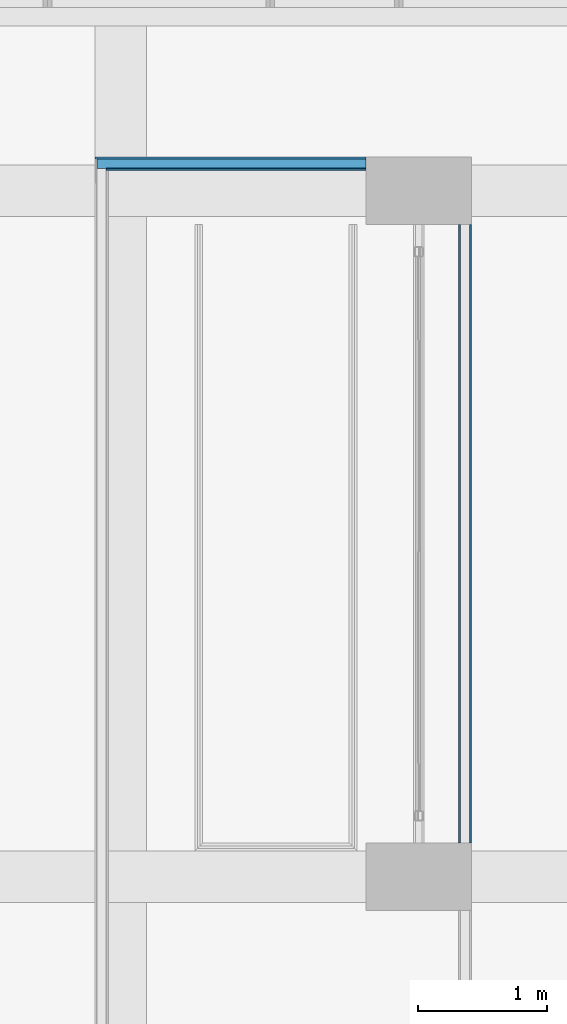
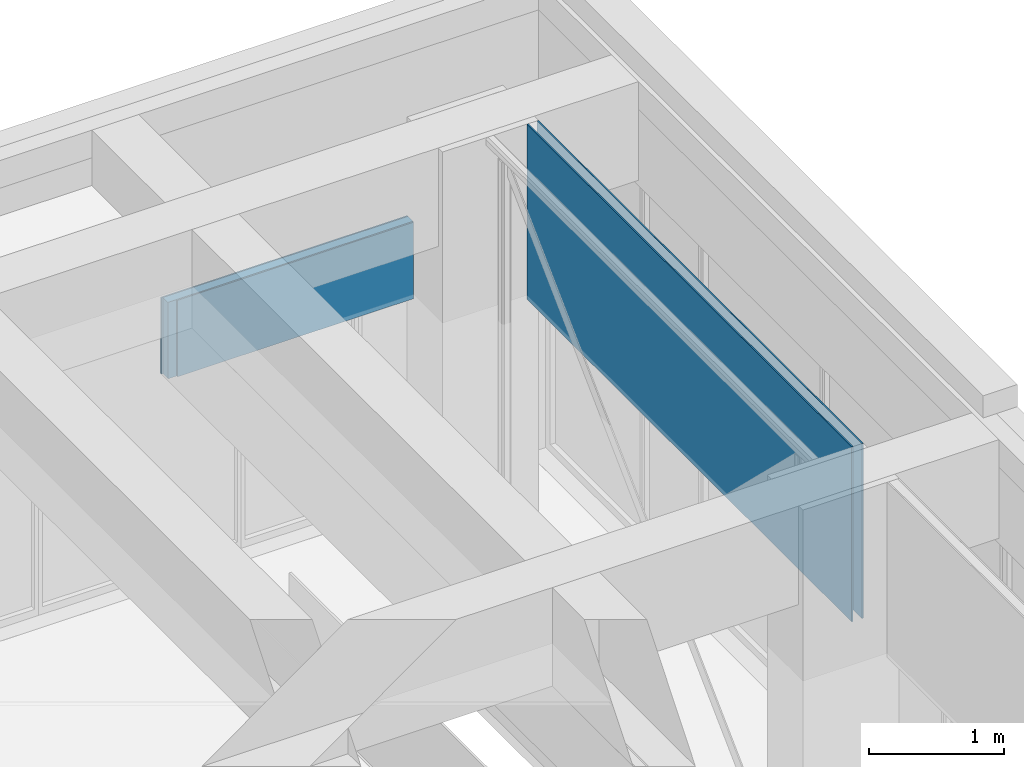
# One storey, part 90 of 117: 5 building element parts, 2 elements without a shape of their own.
"""IFC2X3 building model written with IfcOpenShell, lengths in millimetres."""

from ifc_helpers import new_model, entity, si_unit, converted_unit, derived_unit, money_unit, direction, frame, origin_with_axes, place, context, subcontext, project, spatial, faceted_brep, material, type_object, element, aggregate, save


model = new_model("IFC2X3")

# Units and contexts
model_context = context("Model", 3, precision=0.01, world=origin_with_axes(), true_north=direction((0.0, 1.0)))
body_context = subcontext(model_context, "Body", "Model", "MODEL_VIEW")
ifc_project = project(units=[si_unit("LENGTHUNIT", "METRE", prefix="MILLI"), si_unit("AREAUNIT", "SQUARE_METRE"), si_unit("VOLUMEUNIT", "CUBIC_METRE"), converted_unit("PLANEANGLEUNIT", "DEGREE", entity("IfcPlaneAngleMeasure", 0.0174532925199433), si_unit("PLANEANGLEUNIT", "RADIAN"), dimensions=[0, 0, 0, 0, 0, 0, 0]), money_unit("EUR"), converted_unit("TIMEUNIT", "Year", entity("IfcTimeMeasure", 31557600.0), si_unit("TIMEUNIT", "SECOND"), dimensions=[0, 0, 1, 0, 0, 0, 0]), si_unit("MASSUNIT", "GRAM", prefix="KILO"), si_unit("THERMODYNAMICTEMPERATUREUNIT", "DEGREE_CELSIUS"), si_unit("LUMINOUSINTENSITYUNIT", "LUMEN"), si_unit("ENERGYUNIT", "JOULE", prefix="MEGA"), derived_unit("THERMALCONDUCTANCEUNIT", [(si_unit("POWERUNIT", "WATT"), 1), (si_unit("LENGTHUNIT", "METRE"), -1), (si_unit("THERMODYNAMICTEMPERATUREUNIT", "KELVIN"), -1)]), derived_unit("SPECIFICHEATCAPACITYUNIT", [(si_unit("ENERGYUNIT", "JOULE"), 1), (si_unit("MASSUNIT", "GRAM", prefix="KILO"), -1), (si_unit("THERMODYNAMICTEMPERATUREUNIT", "KELVIN"), -1)]), derived_unit("MASSDENSITYUNIT", [(si_unit("MASSUNIT", "GRAM", prefix="KILO"), 1), (si_unit("VOLUMEUNIT", "CUBIC_METRE"), -1)])], contexts=[model_context])

# Site, building, storey
site_placement = place(None, origin_with_axes())
site = spatial("IfcSite", under=ifc_project, at=site_placement, Name="Site", CompositionType="ELEMENT")
building_placement = place(site_placement, origin_with_axes())
building = spatial("IfcBuilding", under=site, at=building_placement, Name="Naam gebouw", CompositionType="ELEMENT")
storey_placement = place(building_placement, frame((0.0, 0.0, 4150.0), z_axis=(0.0, 0.0, 1.0), x_axis=(1.0, 0.0, 0.0)))
storey = spatial("IfcBuildingStorey", under=building, at=storey_placement, Name="1e verdieping N", CompositionType="ELEMENT", Elevation=4150.0)

# Wall, building element parts
wall_type = type_object("IfcWallType", Name="Metalstud iso 100 100", PredefinedType="NOTDEFINED")
wall_1_placement = place(storey_placement, frame((28195.99999999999, 54868.4124251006, 2760.0), z_axis=(0.0, 0.0, 1.0), x_axis=(-1.0, 0.0, 0.0)))
wall_1 = element("IfcWall", 1, at=wall_1_placement, inside=storey, type_object=wall_type, Name="_Wand-x")
ifc_material_1 = material(Name="Gipsplaat")
building_element_part_1_placement = place(wall_1_placement, origin_with_axes())
building_element_part_1 = element("IfcBuildingElementPart", 2, at=building_element_part_1_placement, material=ifc_material_1, Name="Gipsplaat", context=body_context, shape_type="Brep", body=[
    faceted_brep([(2016.500035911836, 87.49999999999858, 690.0000000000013), (2016.500035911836, 100.0000000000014, 690.0000000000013), (0.0, 100.0000000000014, 690.0000000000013), (0.0, 87.49999999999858, 690.0000000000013), (2016.500035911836, 87.49999999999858, 0.0), (2016.500035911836, 100.0000000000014, 0.0), (0.0, 100.0000000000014, 0.0), (0.0, 87.49999999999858, 0.0)], [[[0, 1, 2, 3]], [[1, 0, 4, 5]], [[1, 5, 6, 2]], [[7, 3, 2, 6]], [[4, 0, 3, 7]], [[5, 4, 7, 6]]]),
])
ifc_material_2 = material(Name="Isolatie - Steenwol LSW")
building_element_part_2_placement = place(wall_1_placement, origin_with_axes())
building_element_part_2 = element("IfcBuildingElementPart", 3, at=building_element_part_2_placement, material=ifc_material_2, Name="Isolatie - Steenwol LSW", context=body_context, shape_type="Brep", body=[
    faceted_brep([(2091.500035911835, 12.50000000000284, 690.0000000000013), (2091.500035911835, 87.49999999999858, 690.0000000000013), (0.0, 87.49999999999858, 690.0000000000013), (0.0, 12.50000000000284, 690.0000000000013), (2091.500035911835, 12.50000000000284, 0.0), (2091.500035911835, 87.49999999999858, 0.0), (0.0, 87.49999999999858, 0.0), (0.0, 12.50000000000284, 0.0)], [[[0, 1, 2, 3]], [[1, 0, 4, 5]], [[1, 5, 6, 2]], [[7, 3, 2, 6]], [[4, 0, 3, 7]], [[5, 4, 7, 6]]]),
])
building_element_part_3_placement = place(wall_1_placement, origin_with_axes())
building_element_part_3 = element("IfcBuildingElementPart", 4, at=building_element_part_3_placement, material=ifc_material_1, Name="Gipsplaat", context=body_context, shape_type="Brep", body=[
    faceted_brep([(2104.000035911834, 0.0, 690.0000000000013), (2104.000035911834, 12.50000000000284, 690.0000000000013), (0.0, 12.50000000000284, 690.0000000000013), (0.0, 0.0, 690.0000000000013), (2104.000035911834, 0.0, 0.0), (2104.000035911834, 12.50000000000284, 0.0), (0.0, 12.50000000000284, 0.0), (0.0, 0.0, 0.0)], [[[0, 1, 2, 3]], [[1, 0, 4, 5]], [[1, 5, 6, 2]], [[7, 3, 2, 6]], [[4, 0, 3, 7]], [[5, 4, 7, 6]]]),
])
aggregate(wall_1, [building_element_part_1, building_element_part_2, building_element_part_3])

wall_2_placement = place(storey_placement, frame((29015.99999999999, 49538.4124251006, 2760.0), z_axis=(0.0, 0.0, 1.0), x_axis=(0.0, 1.0, 0.0)))
wall_2 = element("IfcWall", 5, at=wall_2_placement, inside=storey, type_object=wall_type, Name="_Wand-x")
building_element_part_4_placement = place(wall_2_placement, origin_with_axes())
building_element_part_4 = element("IfcBuildingElementPart", 6, at=building_element_part_4_placement, material=ifc_material_1, Name="Gipsplaat", context=body_context, shape_type="Brep", body=[
    faceted_brep([(0.0, 0.0, 1580.0), (4804.999999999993, 0.0, 1580.0), (4804.999999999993, 12.49999999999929, 1580.0), (0.0, 12.49999999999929, 1580.0), (0.0, 0.0, 0.0), (4804.999999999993, 0.0, 0.0), (4804.999999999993, 12.49999999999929, 0.0), (0.0, 12.49999999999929, 0.0)], [[[0, 1, 2, 3]], [[4, 5, 1, 0]], [[2, 1, 5, 6]], [[3, 2, 6, 7]], [[4, 0, 3, 7]], [[7, 6, 5, 4]]]),
])
building_element_part_5_placement = place(wall_2_placement, origin_with_axes())
building_element_part_5 = element("IfcBuildingElementPart", 7, at=building_element_part_5_placement, material=ifc_material_1, Name="Gipsplaat", context=body_context, shape_type="Brep", body=[
    faceted_brep([(0.0, 87.49999999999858, 1580.0), (4804.999999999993, 87.49999999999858, 1580.0), (4804.999999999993, 100.0000000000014, 1580.0), (0.0, 100.0000000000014, 1580.0), (0.0, 87.49999999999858, 0.0), (4804.999999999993, 87.49999999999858, 0.0), (4804.999999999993, 100.0000000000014, 0.0), (0.0, 100.0000000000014, 0.0)], [[[0, 1, 2, 3]], [[4, 5, 1, 0]], [[2, 1, 5, 6]], [[3, 2, 6, 7]], [[4, 0, 3, 7]], [[7, 6, 5, 4]]]),
])
aggregate(wall_2, [building_element_part_4, building_element_part_5])

save(model, "model.ifc")
